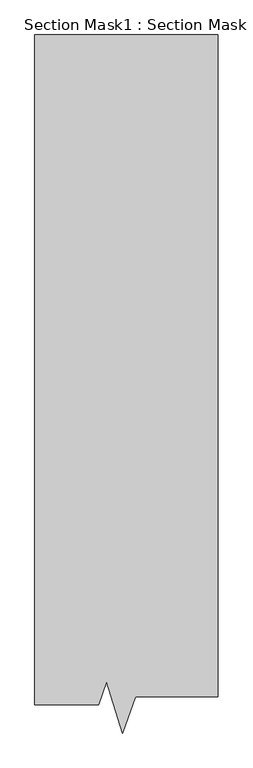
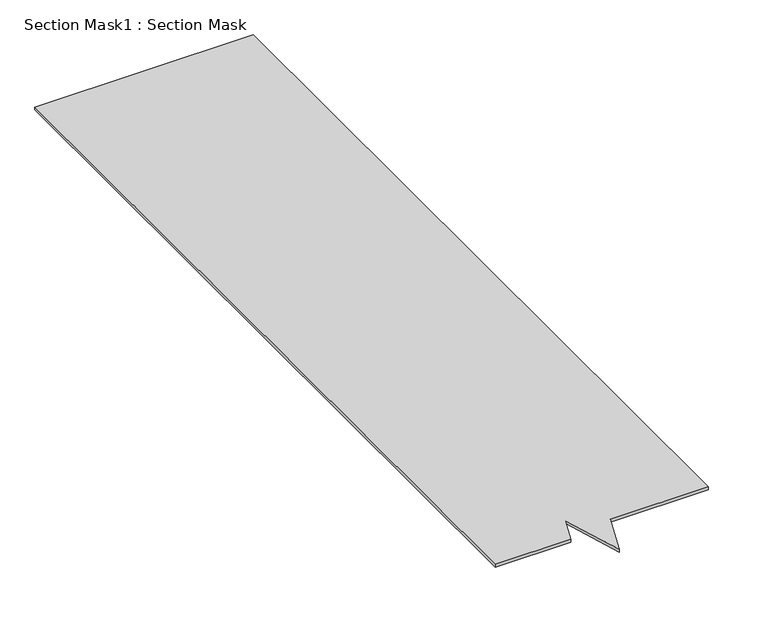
"""IFC4 building model written with IfcOpenShell, lengths in millimetres: proxy geometry, Section Mask1 : Section Mask."""

from ifc_helpers import new_model, si_unit, frame, origin, place, context, project, spatial, polyline, outline, extrude, source, transform, mapped, element, save


def section_mask1_section_mask_05ade613(model_context):
    return source(origin(), model_context, "Body", "SweptSolid", [
        extrude(outline(polyline([(8124.664325, 631.273934), (7950.4235609, 631.273934), (7950.4235609, 2465.4614947), (8452.5633775, 2465.4614947), (8452.5633775, 652.1224056), (8227.2982256, 652.1224056), (8190.6813689, 552.9595639), (8147.6812645, 693.6065681), (8124.664325, 631.273934)])), frame((0.0, 0.0, 64.0773345), z_axis=(0.0, 0.0, 1.0), x_axis=(1.0, 0.0, 0.0)), (0.0, 0.0, 1.0), 6.7336346),
    ])


if __name__ == "__main__":
    model = new_model("IFC4")
    model_context = context("Model", 3, world=origin())
    ifc_project = project(units=[si_unit("LENGTHUNIT", "METRE", prefix="MILLI")], contexts=[model_context])
    site = spatial("IfcSite", under=ifc_project)
    building = spatial("IfcBuilding", under=site)
    placement = place(None, origin())
    section_mask1_section_mask_shape = section_mask1_section_mask_05ade613(model_context)
    element("IfcBuildingElementProxy", 1, Name="Section Mask1 : Section Mask", ObjectType="Section Mask1 : Section Mask", at=placement, inside=building, context=model_context, shape_type="MappedRepresentation", body=[
        mapped(section_mask1_section_mask_shape, transform((0.0, 0.0, 0.0), x_axis=(1.0, 0.0, 0.0), y_axis=(0.0, 1.0, 0.0), z_axis=(0.0, 0.0, 1.0))),
    ])
    save(model, "model.ifc")
